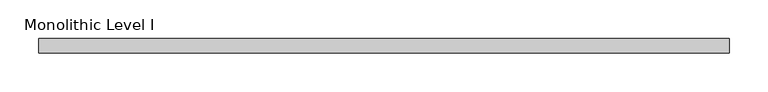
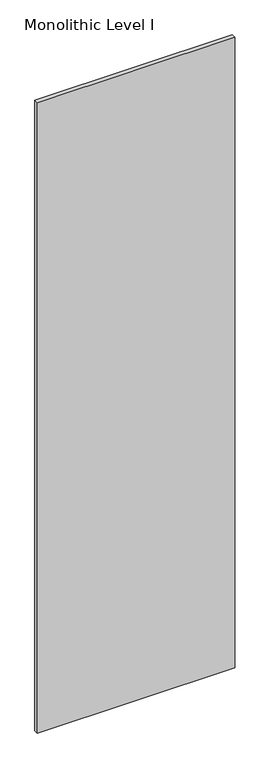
"""IFC4 building model written with IfcOpenShell, lengths in millimetres: proxy geometry, Panel-Fascia-Teknion-Altos-Standard : Monolithic Level I."""

from ifc_helpers import new_model, si_unit, frame, origin, place, context, project, spatial, polyline, outline, extrude, source, transform, mapped, element, save


def monolithic_level_i_61e75e15(model_context):
    return source(origin(), model_context, "Body", "SweptSolid", [
        extrude(outline(polyline([(447.0300781, 9.525), (447.0300781, -9.525), (-447.0300781, -9.525), (-447.0300781, 9.525), (447.0300781, 9.525)])), frame((0.0, 0.0, 3.175), z_axis=(0.0, 0.0, 1.0), x_axis=(1.0, 0.0, 0.0)), (0.0, 0.0, 1.0), 3016.25),
    ])


if __name__ == "__main__":
    model = new_model("IFC4")
    model_context = context("Model", 3, world=origin())
    ifc_project = project(units=[si_unit("LENGTHUNIT", "METRE", prefix="MILLI")], contexts=[model_context])
    site = spatial("IfcSite", under=ifc_project)
    building = spatial("IfcBuilding", under=site)
    placement = place(None, origin())
    monolithic_level_i_shape = monolithic_level_i_61e75e15(model_context)
    element("IfcBuildingElementProxy", 1, Name="Panel-Fascia-Teknion-Altos-Standard : Monolithic Level I", ObjectType="Panel-Fascia-Teknion-Altos-Standard : Monolithic Level I", at=placement, inside=building, context=model_context, shape_type="MappedRepresentation", body=[
        mapped(monolithic_level_i_shape, transform((0.0, 0.0, 0.0), x_axis=(1.0, 0.0, 0.0), y_axis=(0.0, 1.0, 0.0), z_axis=(0.0, 0.0, 1.0))),
    ])
    save(model, "model.ifc")
